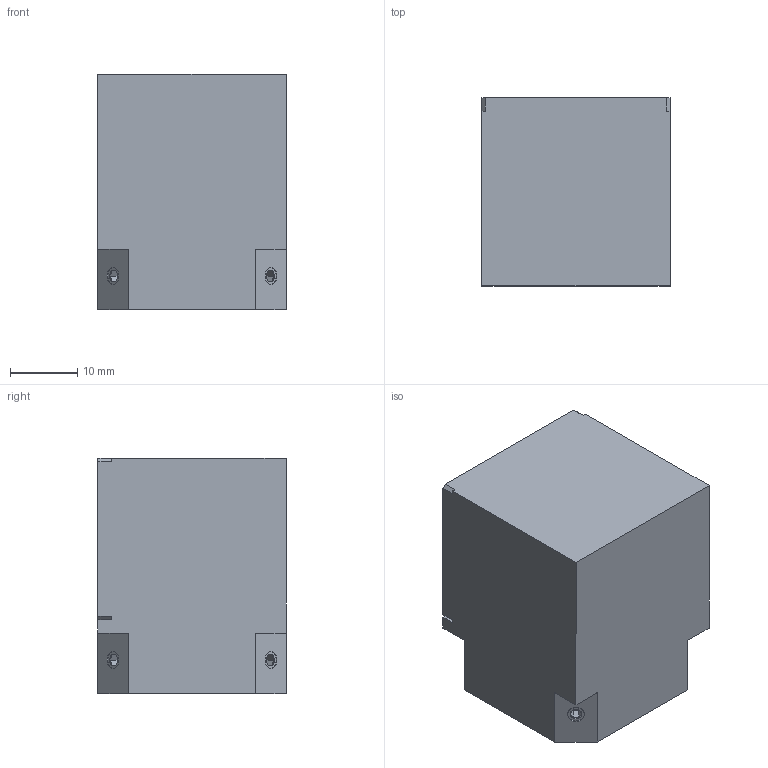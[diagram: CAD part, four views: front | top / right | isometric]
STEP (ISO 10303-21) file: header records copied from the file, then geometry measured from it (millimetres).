
FILE_DESCRIPTION (( 'STEP AP214' ), '1' );
FILE_NAME ('MML-PL25HR.STEP', '2026-02-24T05:39:15', ( '' ), ( '' ), 'SwSTEP 2.0', 'SolidWorks 2025', '' );
FILE_SCHEMA (( 'AUTOMOTIVE_DESIGN' ));
Length unit declared in the file: millimetre
Products named in the file (1): MML-PL25HR
Bounding box: 28 x 28 x 35 mm (x, y, z)
Volume: 14860.8 mm3; surface area: 7953.4 mm2
Topology: 1 solids, 4 shells, 268 faces, 692 edges, 443 vertices
Faces by surface type: plane 142, cone 73, cylinder 41, torus 8, sphere 4
Entity records: 8618 total; most frequent: CARTESIAN_POINT 2083, ORIENTED_EDGE 1372, DIRECTION 1359, EDGE_CURVE 686, AXIS2_PLACEMENT_3D 511, VERTEX_POINT 443, LINE 337, VECTOR 337
